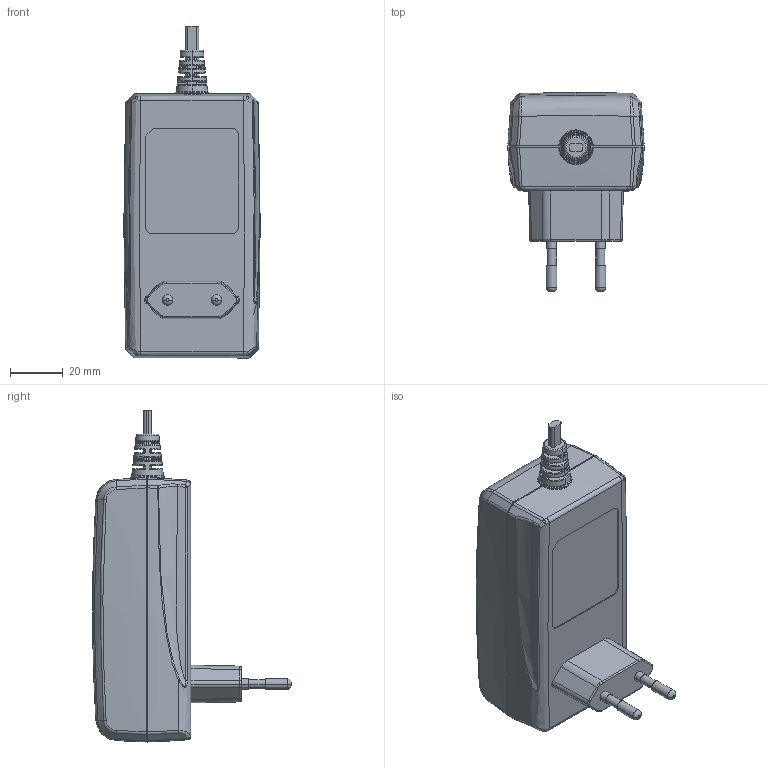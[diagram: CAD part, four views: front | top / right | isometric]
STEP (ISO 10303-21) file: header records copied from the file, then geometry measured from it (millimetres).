
FILE_DESCRIPTION (( 'STEP AP203' ), '1' );
FILE_NAME ('TP7.STEP', '2020-04-10T08:31:56', ( '' ), ( '' ), 'SwSTEP 2.0', 'SolidWorks 2015', '' );
FILE_SCHEMA (( 'CONFIG_CONTROL_DESIGN' ));
Length unit declared in the file: millimetre
Products named in the file (1): TP7
Bounding box: 51.56 x 75.2 x 125.52 mm (x, y, z)
Volume: 184828.7 mm3; surface area: 32734.3 mm2
Topology: 4 solids, 4 shells, 646 faces, 1615 edges, 1008 vertices
Faces by surface type: bspline 269, plane 163, cylinder 128, torus 42, sphere 30, cone 14
Entity records: 26828 total; most frequent: CARTESIAN_POINT 13068, ORIENTED_EDGE 3222, DIRECTION 2316, EDGE_CURVE 1611, VERTEX_POINT 1008, AXIS2_PLACEMENT_3D 915, EDGE_LOOP 685, ADVANCED_FACE 646
